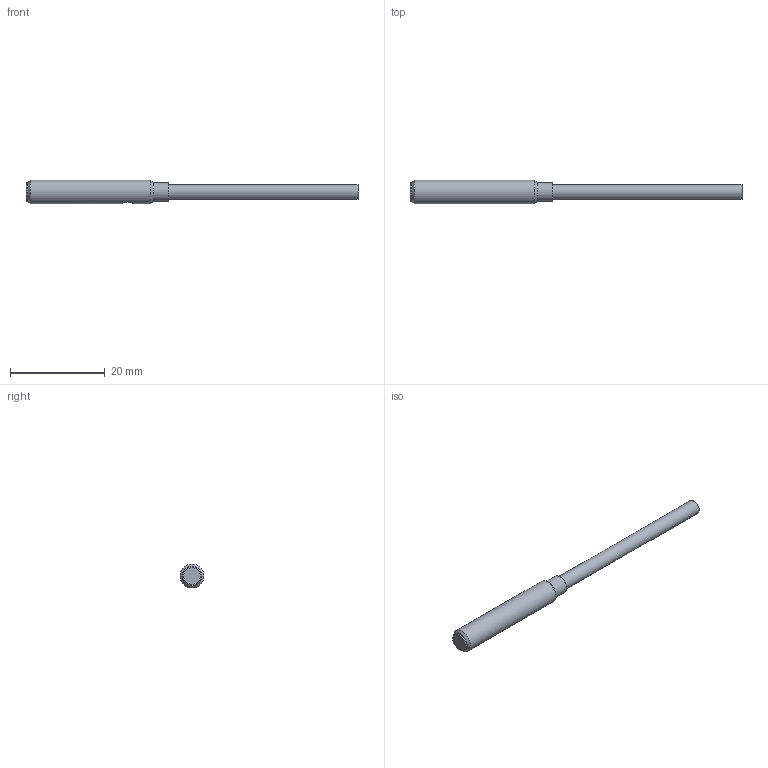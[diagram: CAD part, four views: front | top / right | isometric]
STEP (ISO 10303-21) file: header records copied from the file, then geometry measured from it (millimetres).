
FILE_DESCRIPTION( ( 'Unknown' ), '1' );
FILE_NAME( '//SRVMDFS14/dati/Ricerca&Sviluppo/2_Documenti_Tecnici/1_Disegni_Mec/Figurini/STP/AD1_1A_fig.stp', 'Unknown', ( 'Unknown' ), ( 'Unknown' ), 'PSStep 17.0.49', 'Unknown', ' ' );
FILE_SCHEMA( ( 'AUTOMOTIVE_DESIGN { 1 0 10303 214 1 1 1 1 }' ) );
Length unit declared in the file: millimetre
Products named in the file (4): Assem1; -oa0
Assembly tree (3 placements, depth 2):
  Assem1
    -oa0
    -oa0
    -oa0
Bounding box: 70.2 x 5 x 5 mm (x, y, z)
Volume: 556.4 mm3; surface area: 902.6 mm2
Topology: 1 solids, 6 shells, 16 faces, 31 edges, 21 vertices
Faces by surface type: cylinder 6, plane 6, cone 3, torus 1
Full cylindrical faces by diameter (mm): 1.9 x1, 2.7 x1, 3.1 x1, 4 x2, 5 x1
Entity records: 449 total; most frequent: CARTESIAN_POINT 99, DIRECTION 74, AXIS2_PLACEMENT_3D 37, EDGE_LOOP 28, ORIENTED_EDGE 28, EDGE_CURVE 18, VERTEX_POINT 18, CIRCLE 17
